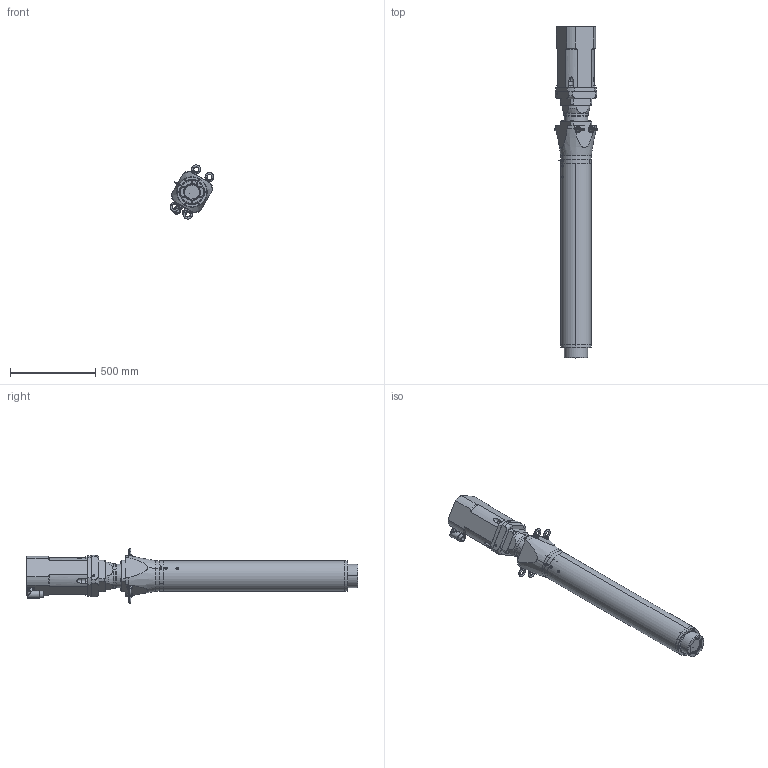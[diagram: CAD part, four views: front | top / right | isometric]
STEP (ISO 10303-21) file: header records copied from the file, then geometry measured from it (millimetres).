
FILE_DESCRIPTION (( 'STEP AP214' ), '1' );
FILE_NAME ('RLWIK100D-075-020HG0.STEP', '2023-04-06T05:51:32', ( '' ), ( '' ), 'SwSTEP 2.0', 'SolidWorks 2021', '' );
FILE_SCHEMA (( 'AUTOMOTIVE_DESIGN' ));
Length unit declared in the file: millimetre
Products named in the file (1): RLWIK100D-075-020HG0
Bounding box: 257.44 x 1944 x 317.1 mm (x, y, z)
Volume: 40529973.4 mm3; surface area: 2990342.5 mm2
Topology: 34 solids, 34 shells, 1194 faces, 2824 edges, 1676 vertices
Faces by surface type: cylinder 466, plane 354, cone 206, torus 92, bspline 74, sphere 2
Entity records: 53152 total; most frequent: CARTESIAN_POINT 12564, DIRECTION 5936, ORIENTED_EDGE 5360, EDGE_CURVE 2680, AXIS2_PLACEMENT_3D 2400, VERTEX_POINT 1676, EDGE_LOOP 1406, CIRCLE 1279
